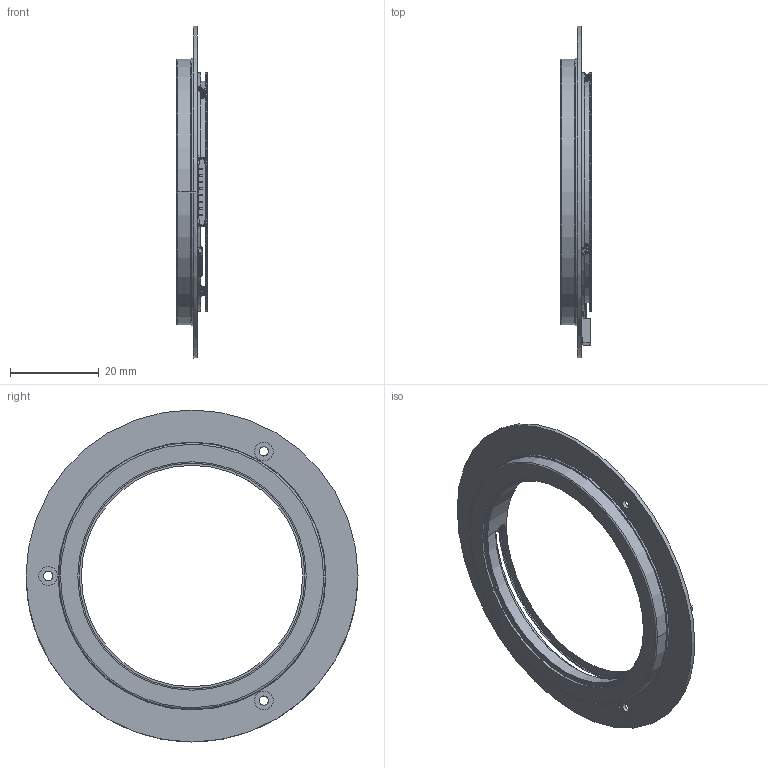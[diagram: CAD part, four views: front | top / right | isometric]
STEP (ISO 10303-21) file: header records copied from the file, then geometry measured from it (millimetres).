
FILE_DESCRIPTION (( 'STEP AP214' ), '1' );
FILE_NAME ('MBS-50-75¸üÐÂ.STEP', '2024-07-16T08:13:12', ( '' ), ( '' ), 'SwSTEP 2.0', 'SolidWorks 2016', '' );
FILE_SCHEMA (( 'AUTOMOTIVE_DESIGN' ));
Length unit declared in the file: millimetre
Products named in the file (1): MBS-50-75載陔
Bounding box: 7 x 75 x 75 mm (x, y, z)
Surface area: 11835.6 mm2 (no closed solid volume)
Topology: 0 solids, 32 shells, 1358 faces, 3679 edges, 2412 vertices
Faces by surface type: plane 884, bspline 323, cylinder 137, cone 14
Entity records: 117986 total; most frequent: CARTESIAN_POINT 79700, ORIENTED_EDGE 7258, DIRECTION 5362, EDGE_CURVE 3663, VECTOR 2688, LINE 2688, VERTEX_POINT 2412, EDGE_LOOP 1450
